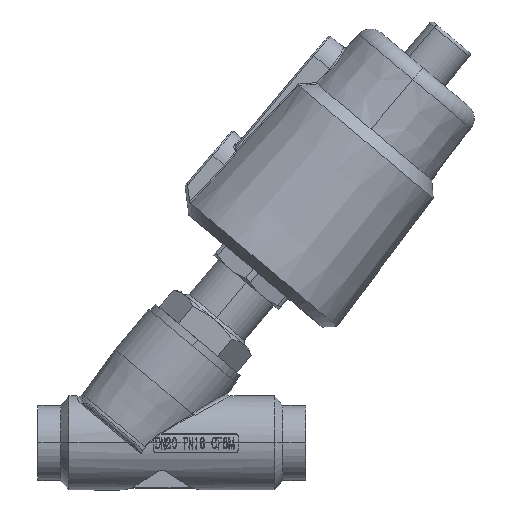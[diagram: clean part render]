
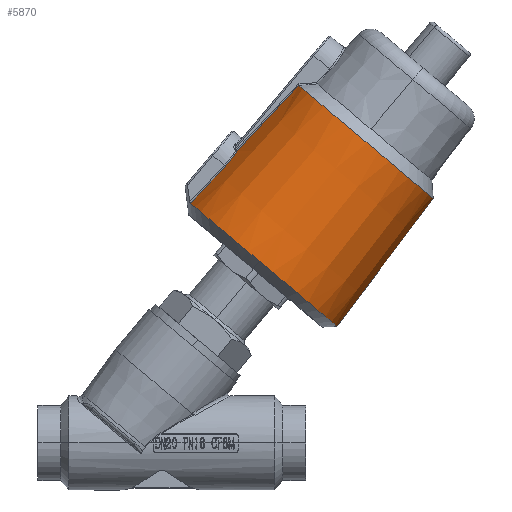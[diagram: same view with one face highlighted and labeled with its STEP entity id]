
A CAD part, top view. The second image highlights one B-rep face of the part: STEP entity #5870.
In plain terms, the highlighted conical face has half-angle 3.066 degrees and reference radius 30.023 mm.
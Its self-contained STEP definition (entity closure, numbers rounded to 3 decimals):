
#601 = DIRECTION ( 'NONE',  ( 1., 0., 0. ) ) ;
#1220 = CARTESIAN_POINT ( 'NONE',  ( 8.201, 52.003, 26.144 ) ) ;
#2007 = CARTESIAN_POINT ( 'NONE',  ( 0., 3.038, 0. ) ) ;
#2565 = VERTEX_POINT ( 'NONE', #18147 ) ;
#2760 = CIRCLE ( 'NONE', #27675, 30.023 ) ;
#3330 = VERTEX_POINT ( 'NONE', #6188 ) ;
#4449 = AXIS2_PLACEMENT_3D ( 'NONE', #34004, #37193, #18126 ) ;
#4821 = CARTESIAN_POINT ( 'NONE',  ( 30.023, 3.038, 0. ) ) ;
#5249 = DIRECTION ( 'NONE',  ( 1., 0., 0. ) ) ;
#5870 = ADVANCED_FACE ( 'NONE', ( #34654 ), #30741, .T. ) ;
#6188 = CARTESIAN_POINT ( 'NONE',  ( 0., 3.038, -30.023 ) ) ;
#8364 = CARTESIAN_POINT ( 'NONE',  ( 8.206, 34.051, 27.149 ) ) ;
#8475 = CARTESIAN_POINT ( 'NONE',  ( 8.796, 23.804, 27.541 ) ) ;
#8611 = CARTESIAN_POINT ( 'NONE',  ( 10.13, 8.329, 27.961 ) ) ;
#10189 = CARTESIAN_POINT ( 'NONE',  ( 8.242, 52., 26.131 ) ) ;
#10854 = CARTESIAN_POINT ( 'NONE',  ( 8.242, 52., 26.131 ) ) ;
#10861 = DIRECTION ( 'NONE',  ( 0., -1., 0. ) ) ;
#11413 = CARTESIAN_POINT ( 'NONE',  ( 8.201, 52.003, 26.144 ) ) ;
#11681 = CARTESIAN_POINT ( 'NONE',  ( 9.471, 22.356, 27.398 ) ) ;
#11742 = B_SPLINE_CURVE_WITH_KNOTS ( 'NONE', 3,
 ( #21087, #14754, #8475, #30648, #11681, #33809, #14895, #37001 ),
 .UNSPECIFIED., .F., .F.,
 ( 4, 2, 2, 4 ),
 ( 0., 0.25, 0.5, 1. ),
 .UNSPECIFIED. ) ;
#12342 = CARTESIAN_POINT ( 'NONE',  ( 10.127, 18.673, 27.372 ) ) ;
#12531 = VERTEX_POINT ( 'NONE', #15413 ) ;
#13727 = CARTESIAN_POINT ( 'NONE',  ( 10.132, 3.038, 28.262 ) ) ;
#14608 = VERTEX_POINT ( 'NONE', #13727 ) ;
#14754 = CARTESIAN_POINT ( 'NONE',  ( 8.521, 24.263, 27.602 ) ) ;
#14895 = CARTESIAN_POINT ( 'NONE',  ( 10.126, 19.756, 27.31 ) ) ;
#15413 = CARTESIAN_POINT ( 'NONE',  ( 8.208, 24.704, 27.671 ) ) ;
#15534 = VERTEX_POINT ( 'NONE', #4821 ) ;
#15805 = AXIS2_PLACEMENT_3D ( 'NONE', #38681, #19751, #601 ) ;
#17469 = B_SPLINE_CURVE_WITH_KNOTS ( 'NONE', 3,
 ( #10854, #29833, #39358, #20414 ),
 .UNSPECIFIED., .F., .F.,
 ( 4, 4 ),
 ( 0., 0. ),
 .UNSPECIFIED. ) ;
#17540 = CARTESIAN_POINT ( 'NONE',  ( 8.203, 43.15, 26.64 ) ) ;
#17701 = DIRECTION ( 'NONE',  ( 0., -0.999, -0.053 ) ) ;
#18126 = DIRECTION ( 'NONE',  ( 0., 0., -1. ) ) ;
#18138 = B_SPLINE_CURVE_WITH_KNOTS ( 'NONE', 3,
 ( #24411, #27468, #8611, #30791 ),
 .UNSPECIFIED., .F., .F.,
 ( 4, 4 ),
 ( 0., 1. ),
 .UNSPECIFIED. ) ;
#18147 = CARTESIAN_POINT ( 'NONE',  ( 0., 52., -27.4 ) ) ;
#18365 = ORIENTED_EDGE ( 'NONE', *, *, #30470, .F. ) ;
#19384 = ORIENTED_EDGE ( 'NONE', *, *, #24837, .T. ) ;
#19655 = CIRCLE ( 'NONE', #24245, 27.4 ) ;
#19751 = DIRECTION ( 'NONE',  ( 0., 1., 0. ) ) ;
#20347 = EDGE_CURVE ( 'NONE', #27603, #35564, #17469, .T. ) ;
#20414 = CARTESIAN_POINT ( 'NONE',  ( 8.201, 52.003, 26.144 ) ) ;
#20860 = CARTESIAN_POINT ( 'NONE',  ( 0., 3.038, -30.023 ) ) ;
#21087 = CARTESIAN_POINT ( 'NONE',  ( 8.208, 24.704, 27.671 ) ) ;
#22183 = ORIENTED_EDGE ( 'NONE', *, *, #24887, .T. ) ;
#23401 = ORIENTED_EDGE ( 'NONE', *, *, #28884, .T. ) ;
#24245 = AXIS2_PLACEMENT_3D ( 'NONE', #29838, #10861, #33004 ) ;
#24273 = DIRECTION ( 'NONE',  ( 0., 1., 0. ) ) ;
#24290 = ORIENTED_EDGE ( 'NONE', *, *, #20347, .T. ) ;
#24366 = EDGE_LOOP ( 'NONE', ( #18365, #36006, #24290, #26230, #32201, #22183, #23401, #19384 ) ) ;
#24411 = CARTESIAN_POINT ( 'NONE',  ( 10.127, 18.673, 27.372 ) ) ;
#24837 = EDGE_CURVE ( 'NONE', #15534, #3330, #2760, .T. ) ;
#24868 = EDGE_CURVE ( 'NONE', #12531, #34181, #11742, .T. ) ;
#24887 = EDGE_CURVE ( 'NONE', #34181, #14608, #18138, .T. ) ;
#26230 = ORIENTED_EDGE ( 'NONE', *, *, #39426, .T. ) ;
#27468 = CARTESIAN_POINT ( 'NONE',  ( 10.128, 13.541, 27.665 ) ) ;
#27603 = VERTEX_POINT ( 'NONE', #10189 ) ;
#27675 = AXIS2_PLACEMENT_3D ( 'NONE', #2007, #24273, #5249 ) ;
#28884 = EDGE_CURVE ( 'NONE', #14608, #15534, #29070, .T. ) ;
#28921 = EDGE_CURVE ( 'NONE', #2565, #27603, #19655, .T. ) ;
#29070 = CIRCLE ( 'NONE', #15805, 30.023 ) ;
#29833 = CARTESIAN_POINT ( 'NONE',  ( 8.228, 52., 26.135 ) ) ;
#29838 = CARTESIAN_POINT ( 'NONE',  ( 0., 52., 0. ) ) ;
#30470 = EDGE_CURVE ( 'NONE', #2565, #3330, #32001, .T. ) ;
#30532 = CARTESIAN_POINT ( 'NONE',  ( 8.208, 24.704, 27.671 ) ) ;
#30648 = CARTESIAN_POINT ( 'NONE',  ( 9.272, 22.85, 27.439 ) ) ;
#30741 = CONICAL_SURFACE ( 'NONE', #4449, 30.023, 0.054 ) ;
#30791 = CARTESIAN_POINT ( 'NONE',  ( 10.132, 3.038, 28.262 ) ) ;
#32001 = LINE ( 'NONE', #20860, #39400 ) ;
#32201 = ORIENTED_EDGE ( 'NONE', *, *, #24868, .T. ) ;
#32937 = B_SPLINE_CURVE_WITH_KNOTS ( 'NONE', 3,
 ( #11413, #17540, #8364, #30532 ),
 .UNSPECIFIED., .F., .F.,
 ( 4, 4 ),
 ( 0., 1. ),
 .UNSPECIFIED. ) ;
#33004 = DIRECTION ( 'NONE',  ( 1., 0., 0. ) ) ;
#33809 = CARTESIAN_POINT ( 'NONE',  ( 9.962, 20.812, 27.312 ) ) ;
#34004 = CARTESIAN_POINT ( 'NONE',  ( 0., 3.038, 0. ) ) ;
#34181 = VERTEX_POINT ( 'NONE', #12342 ) ;
#34654 = FACE_OUTER_BOUND ( 'NONE', #24366, .T. ) ;
#35564 = VERTEX_POINT ( 'NONE', #1220 ) ;
#36006 = ORIENTED_EDGE ( 'NONE', *, *, #28921, .T. ) ;
#37001 = CARTESIAN_POINT ( 'NONE',  ( 10.127, 18.673, 27.372 ) ) ;
#37193 = DIRECTION ( 'NONE',  ( 0., -1., 0. ) ) ;
#38681 = CARTESIAN_POINT ( 'NONE',  ( 0., 3.038, 0. ) ) ;
#39358 = CARTESIAN_POINT ( 'NONE',  ( 8.214, 52.001, 26.14 ) ) ;
#39400 = VECTOR ( 'NONE', #17701, 1000. ) ;
#39426 = EDGE_CURVE ( 'NONE', #35564, #12531, #32937, .T. ) ;
